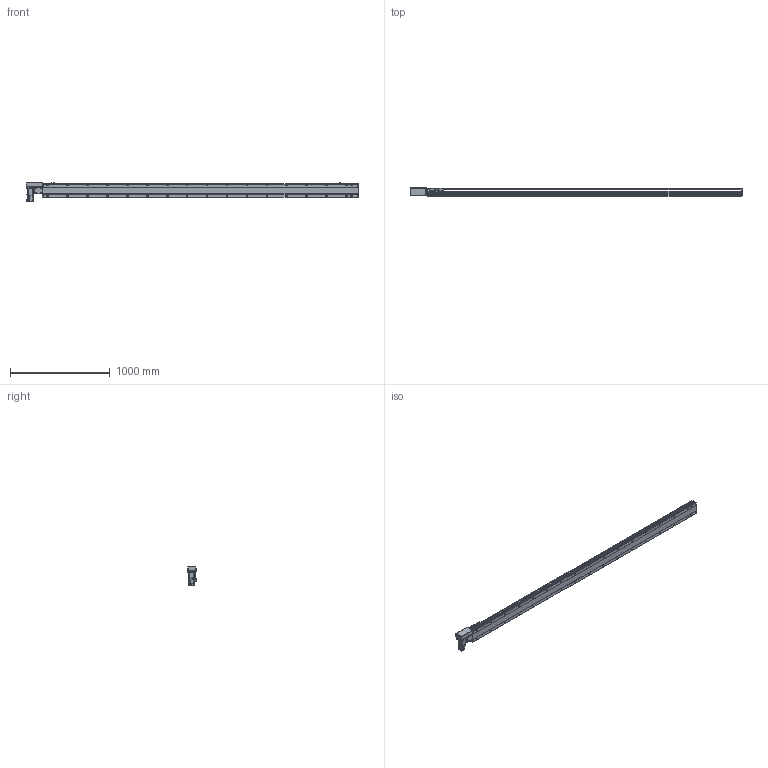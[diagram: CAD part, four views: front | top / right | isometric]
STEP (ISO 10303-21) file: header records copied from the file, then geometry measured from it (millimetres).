
FILE_DESCRIPTION( ( 'STEP AP214' ), '1' );
FILE_NAME( 'x:/temp/worker_27/temp/exporttempdir_6708_389_O1G4T/format_0/PBS140-P40-S2900-R-T40-C1-N(0).stp', '2022-06-06T01:32:06', ( 'License CC BY-ND 4.0' ), ( 'CADENAS' ), ' ', 'PARTsolutions', ' ' );
FILE_SCHEMA( ( 'AUTOMOTIVE_DESIGN { 1 0 10303 214 1 1 1 1 }' ) );
Length unit declared in the file: millimetre
Products named in the file (7): PBS140-P40-S2900-R-T40-C1-N(0); _PBS140-S2900()_body; _PBS140T-R_motors; _T40-p1; _PBS140_sliser; _PBS140_plant; _PBS140_sensor
Assembly tree (8 placements, depth 2):
  PBS140-P40-S2900-R-T40-C1-N(0)
    _PBS140-S2900()_body
    _PBS140T-R_motors
    _T40-p1
    _PBS140_sliser
    _PBS140_plant
    _PBS140_sensor  x3
Bounding box: 3333 x 80.5 x 189.7 mm (x, y, z)
Volume: 14475542.9 mm3; surface area: 2458135.3 mm2
Topology: 8 solids, 8 shells, 1219 faces, 3196 edges, 2087 vertices
Faces by surface type: plane 746, cylinder 403, cone 60, sphere 8, torus 2
Full cylindrical faces by diameter (mm): 3.242 x4, 4 x2, 4.134 x4, 4.4 x8, 4.5 x2, 4.8 x4, 4.917 x42, 5.5 x7, 6 x2, 7 x36, 7.5 x8, 8 x12, 8.5 x4, 10.5 x34, 14 x1, 30 x2, 50 x2
Entity records: 45067 total; most frequent: CARTESIAN_POINT 7763, DIRECTION 5827, ORIENTED_EDGE 5452, EDGE_CURVE 2726, AXIS2_PLACEMENT_3D 2077, VERTEX_POINT 1917, LINE 1673, VECTOR 1673
